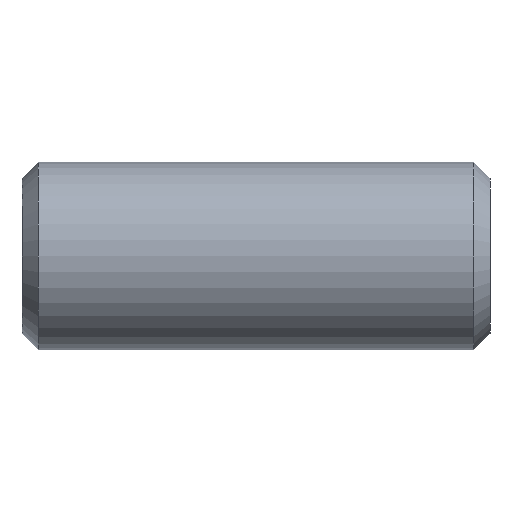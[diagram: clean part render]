
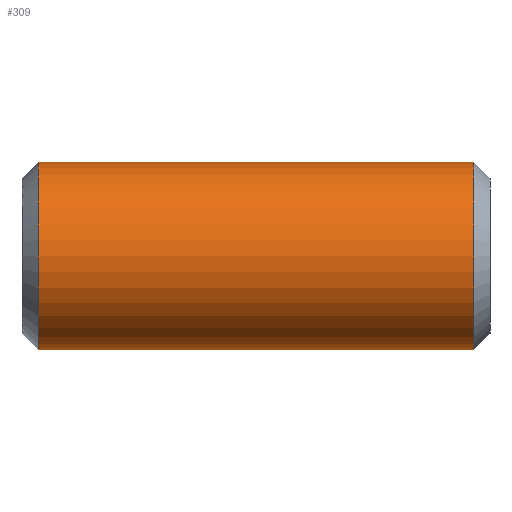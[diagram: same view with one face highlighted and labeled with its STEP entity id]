
A CAD part, left-side view. The second image highlights one B-rep face of the part: STEP entity #309.
In plain terms, the highlighted cylindrical face has radius 8 mm (diameter 16 mm), a full revolution.
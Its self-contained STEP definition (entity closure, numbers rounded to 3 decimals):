
#21=CYLINDRICAL_SURFACE('',#346,8.);
#84=ORIENTED_EDGE('',*,*,#159,.F.);
#85=ORIENTED_EDGE('',*,*,#158,.T.);
#158=EDGE_CURVE('',#196,#196,#217,.T.);
#159=EDGE_CURVE('',#197,#197,#218,.T.);
#196=VERTEX_POINT('',#494);
#197=VERTEX_POINT('',#497);
#217=CIRCLE('',#345,8.);
#218=CIRCLE('',#347,8.);
#234=EDGE_LOOP('',(#84));
#235=EDGE_LOOP('',(#85));
#264=FACE_BOUND('',#234,.T.);
#265=FACE_BOUND('',#235,.T.);
#309=ADVANCED_FACE('',(#264,#265),#21,.T.);
#345=AXIS2_PLACEMENT_3D('',#493,#392,#393);
#346=AXIS2_PLACEMENT_3D('',#495,#394,#395);
#347=AXIS2_PLACEMENT_3D('',#496,#396,#397);
#392=DIRECTION('',(0.,-1.,0.));
#393=DIRECTION('',(0.,0.,-1.));
#394=DIRECTION('',(0.,-1.,0.));
#395=DIRECTION('',(0.,0.,-1.));
#396=DIRECTION('',(0.,-1.,0.));
#397=DIRECTION('',(0.,0.,-1.));
#493=CARTESIAN_POINT('',(0.,38.6,0.));
#494=CARTESIAN_POINT('',(0.,38.6,-8.));
#495=CARTESIAN_POINT('',(0.,0.,0.));
#496=CARTESIAN_POINT('',(0.,1.4,0.));
#497=CARTESIAN_POINT('',(0.,1.4,-8.));
